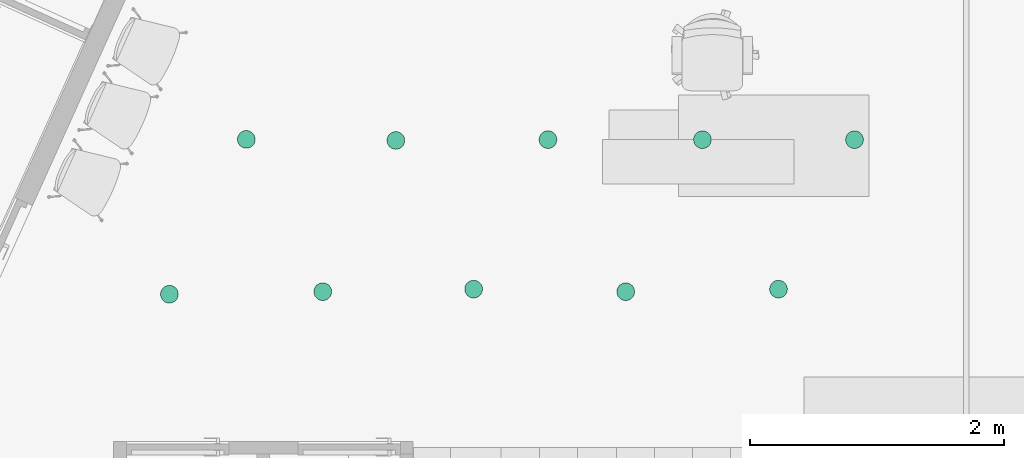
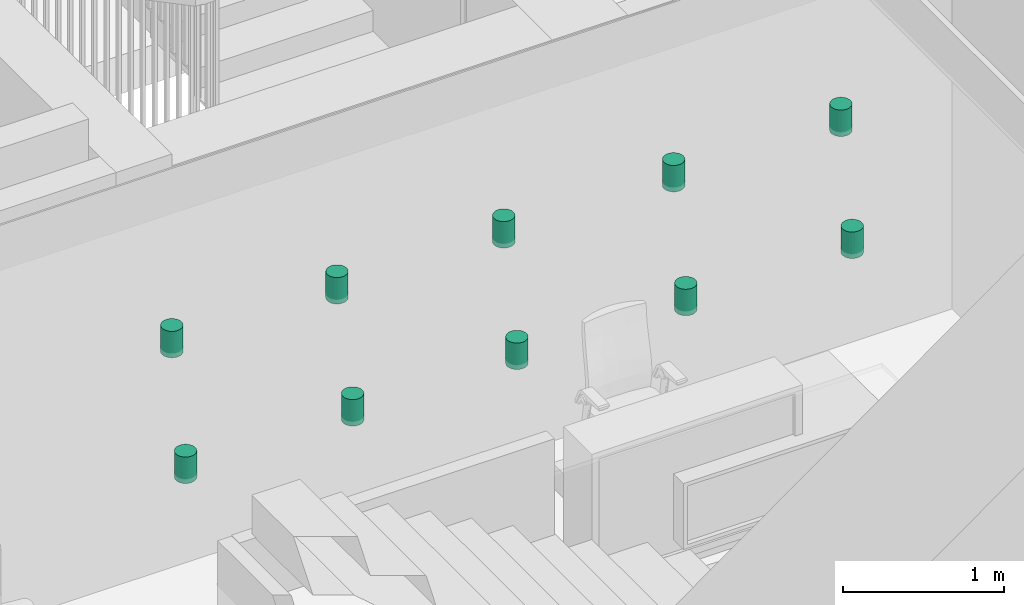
# One storey, part 22 of 25: 10 flow terminals.
"""IFC2X3 building model written with IfcOpenShell, lengths in millimetres."""

from ifc_helpers import new_model, entity, si_unit, converted_unit, derived_unit, direction, frame, frame_2d, origin, place, context, subcontext, project, spatial, circle, hollow_circle, extrude, source, transform, mapped, material, material_list, type_object, type_shapes, element, save


model = new_model("IFC2X3")

# Units and contexts
model_context = context("Model", 3, precision=0.01, world=origin(), true_north=direction((6.12303176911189e-17, 1.0)))
context_of_model = context(None, 3, precision=0.01, world=origin(), true_north=direction((6.12303176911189e-17, 1.0)))
body_context = subcontext(model_context, "Body", "Model", "MODEL_VIEW")
ifc_project = project(units=[si_unit("LENGTHUNIT", "METRE", prefix="MILLI"), si_unit("AREAUNIT", "SQUARE_METRE"), si_unit("VOLUMEUNIT", "CUBIC_METRE"), converted_unit("PLANEANGLEUNIT", "DEGREE", entity("IfcRatioMeasure", 0.0174532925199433), si_unit("PLANEANGLEUNIT", "RADIAN"), dimensions=[0, 0, 0, 0, 0, 0, 0]), si_unit("MASSUNIT", "GRAM", prefix="KILO"), derived_unit("MASSDENSITYUNIT", [(si_unit("MASSUNIT", "GRAM", prefix="KILO"), 1), (si_unit("LENGTHUNIT", "METRE"), -3)]), si_unit("TIMEUNIT", "SECOND"), si_unit("FREQUENCYUNIT", "HERTZ"), si_unit("THERMODYNAMICTEMPERATUREUNIT", "DEGREE_CELSIUS"), derived_unit("THERMALTRANSMITTANCEUNIT", [(si_unit("MASSUNIT", "GRAM", prefix="KILO"), 1), (si_unit("THERMODYNAMICTEMPERATUREUNIT", "KELVIN"), -1), (si_unit("TIMEUNIT", "SECOND"), -3)]), derived_unit("VOLUMETRICFLOWRATEUNIT", [(si_unit("LENGTHUNIT", "METRE"), 3), (si_unit("TIMEUNIT", "SECOND"), -1)]), si_unit("ELECTRICCURRENTUNIT", "AMPERE"), si_unit("ELECTRICVOLTAGEUNIT", "VOLT"), si_unit("POWERUNIT", "WATT"), si_unit("FORCEUNIT", "NEWTON", prefix="KILO"), si_unit("ILLUMINANCEUNIT", "LUX"), si_unit("LUMINOUSFLUXUNIT", "LUMEN"), si_unit("LUMINOUSINTENSITYUNIT", "CANDELA"), derived_unit("USERDEFINED", [(si_unit("MASSUNIT", "GRAM", prefix="KILO"), -1), (si_unit("LENGTHUNIT", "METRE"), -2), (si_unit("TIMEUNIT", "SECOND"), 3), (si_unit("LUMINOUSFLUXUNIT", "LUMEN"), 1)]), derived_unit("LINEARVELOCITYUNIT", [(si_unit("LENGTHUNIT", "METRE"), 1), (si_unit("TIMEUNIT", "SECOND"), -1)]), si_unit("PRESSUREUNIT", "PASCAL"), derived_unit("USERDEFINED", [(si_unit("LENGTHUNIT", "METRE"), -2), (si_unit("MASSUNIT", "GRAM", prefix="KILO"), 1), (si_unit("TIMEUNIT", "SECOND"), -2)])], contexts=[model_context, context_of_model])

# Site, building, storey, space
site_placement = place(None, frame((121442.264707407, 135347.995453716, -1800.0)))
site = spatial("IfcSite", under=ifc_project, at=site_placement, Name="Surface", CompositionType="ELEMENT")
building_placement = place(site_placement, origin())
building = spatial("IfcBuilding", under=site, at=building_placement, CompositionType="ELEMENT")
storey_placement = place(building_placement, frame((0.0, 0.0, 1800.0)))
storey = spatial("IfcBuildingStorey", under=building, at=storey_placement, Name="1 korrus", CompositionType="ELEMENT", Elevation=1800.00000000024)
space_placement = place(storey_placement, origin())
space = spatial("IfcSpace", under=storey, at=space_placement, Name="127", CompositionType="ELEMENT", InteriorOrExteriorSpace="INTERNAL")

# Flow terminals
ifc_material_1 = material(Name="Steel, Paint Finish, Dark Gray, Matte")
ifc_material_2 = material(Name="Glass, White, High Luminance")
ifc_material_list_1 = material_list([ifc_material_1, ifc_material_2])
ifc_material_list_2 = material_list([ifc_material_1, ifc_material_2])
light_fixture_type = type_object("IfcLightFixtureType", Name="152mm Incandescent - 120V", PredefinedType="NOTDEFINED", material=ifc_material_list_2)
shared_shape = source(origin(), body_context, "Body", "SweptSolid", [
    extrude(circle(Radius=69.9999999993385, at=frame_2d((5.0115692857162e-19, -2.25927138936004e-13), x_axis=(1.0, 0.0))), frame((0.0, 0.0, 2625.7)), (0.0, 0.0, 1.0), 12.6999999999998),
    extrude(hollow_circle(Radius=69.9999999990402, WallThickness=12.6999999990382, at=frame_2d((0.0, -3.83804902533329e-13), x_axis=(1.0, 0.0))), frame((0.0, 0.0, 2442.4)), (0.0, 0.0, 1.0), 183.300000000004),
    extrude(circle(Radius=70.0, at=frame_2d((1.71858605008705e-15, -1.13088120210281e-13), x_axis=(1.0, 0.0))), frame((0.0, 0.0, 2438.4)), (0.0, 0.0, 1.0), 3.99999999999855),
])
type_shapes(light_fixture_type, [shared_shape])
flow_terminal_1_placement = place(space_placement, frame((-110022.264707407, -128804.302025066, 211.6)))
element("IfcFlowTerminal", 1, at=flow_terminal_1_placement, inside=space, type_object=light_fixture_type, material=ifc_material_list_1, Name="M_Downlight - Recessed Can:152mm Incandescent - 120V", ObjectType="152mm Incandescent - 120V", context=body_context, shape_type="MappedRepresentation", body=[
    mapped(shared_shape, transform((0.0, 0.0, 0.0), scale=1.0)),
])
ifc_material_list_3 = material_list([ifc_material_1, ifc_material_2])
flow_terminal_2_placement = place(space_placement, frame((-108842.264707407, -128812.742916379, 211.6)))
element("IfcFlowTerminal", 2, at=flow_terminal_2_placement, inside=space, type_object=light_fixture_type, material=ifc_material_list_3, Name="M_Downlight - Recessed Can:152mm Incandescent - 120V", ObjectType="152mm Incandescent - 120V", context=body_context, shape_type="MappedRepresentation", body=[
    mapped(shared_shape, transform((0.0, 0.0, 0.0), scale=1.0)),
])
ifc_material_list_4 = material_list([ifc_material_1, ifc_material_2])
flow_terminal_3_placement = place(space_placement, frame((-107642.264707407, -128805.925769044, 211.6)))
element("IfcFlowTerminal", 3, at=flow_terminal_3_placement, inside=space, type_object=light_fixture_type, material=ifc_material_list_4, Name="M_Downlight - Recessed Can:152mm Incandescent - 120V", ObjectType="152mm Incandescent - 120V", context=body_context, shape_type="MappedRepresentation", body=[
    mapped(shared_shape, transform((0.0, 0.0, 0.0), scale=1.0)),
])
ifc_material_list_5 = material_list([ifc_material_1, ifc_material_2])
flow_terminal_4_placement = place(space_placement, frame((-106423.78903465, -128806.814962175, 211.6)))
element("IfcFlowTerminal", 4, at=flow_terminal_4_placement, inside=space, type_object=light_fixture_type, material=ifc_material_list_5, Name="M_Downlight - Recessed Can:152mm Incandescent - 120V", ObjectType="152mm Incandescent - 120V", context=body_context, shape_type="MappedRepresentation", body=[
    mapped(shared_shape, transform((0.0, 0.0, 0.0), scale=1.0)),
])
ifc_material_list_6 = material_list([ifc_material_1, ifc_material_2])
flow_terminal_5_placement = place(space_placement, frame((-110629.001080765, -130025.927165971, 211.6)))
element("IfcFlowTerminal", 5, at=flow_terminal_5_placement, inside=space, type_object=light_fixture_type, material=ifc_material_list_6, Name="M_Downlight - Recessed Can:152mm Incandescent - 120V", ObjectType="152mm Incandescent - 120V", context=body_context, shape_type="MappedRepresentation", body=[
    mapped(shared_shape, transform((0.0, 0.0, 0.0), scale=1.0)),
])
ifc_material_list_7 = material_list([ifc_material_1, ifc_material_2])
flow_terminal_6_placement = place(space_placement, frame((-109418.994234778, -130005.927165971, 211.6)))
element("IfcFlowTerminal", 6, at=flow_terminal_6_placement, inside=space, type_object=light_fixture_type, material=ifc_material_list_7, Name="M_Downlight - Recessed Can:152mm Incandescent - 120V", ObjectType="152mm Incandescent - 120V", context=body_context, shape_type="MappedRepresentation", body=[
    mapped(shared_shape, transform((0.0, 0.0, 0.0), scale=1.0)),
])
ifc_material_list_8 = material_list([ifc_material_1, ifc_material_2])
flow_terminal_7_placement = place(space_placement, frame((-108228.987963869, -129985.92716597, 211.6)))
element("IfcFlowTerminal", 7, at=flow_terminal_7_placement, inside=space, type_object=light_fixture_type, material=ifc_material_list_8, Name="M_Downlight - Recessed Can:152mm Incandescent - 120V", ObjectType="152mm Incandescent - 120V", context=body_context, shape_type="MappedRepresentation", body=[
    mapped(shared_shape, transform((0.0, 0.0, 0.0), scale=1.0)),
])
ifc_material_list_9 = material_list([ifc_material_1, ifc_material_2])
flow_terminal_8_placement = place(space_placement, frame((-107028.987963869, -130005.927165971, 211.6)))
element("IfcFlowTerminal", 8, at=flow_terminal_8_placement, inside=space, type_object=light_fixture_type, material=ifc_material_list_9, Name="M_Downlight - Recessed Can:152mm Incandescent - 120V", ObjectType="152mm Incandescent - 120V", context=body_context, shape_type="MappedRepresentation", body=[
    mapped(shared_shape, transform((0.0, 0.0, 0.0), scale=1.0)),
])
ifc_material_list_10 = material_list([ifc_material_1, ifc_material_2])
flow_terminal_9_placement = place(space_placement, frame((-105823.78903465, -129985.92716597, 211.6)))
element("IfcFlowTerminal", 9, at=flow_terminal_9_placement, inside=space, type_object=light_fixture_type, material=ifc_material_list_10, Name="M_Downlight - Recessed Can:152mm Incandescent - 120V", ObjectType="152mm Incandescent - 120V", context=body_context, shape_type="MappedRepresentation", body=[
    mapped(shared_shape, transform((0.0, 0.0, 0.0), scale=1.0)),
])
ifc_material_list_11 = material_list([ifc_material_1, ifc_material_2])
flow_terminal_10_placement = place(space_placement, frame((-105223.78903465, -128806.814962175, 211.6)))
element("IfcFlowTerminal", 10, at=flow_terminal_10_placement, inside=space, type_object=light_fixture_type, material=ifc_material_list_11, Name="M_Downlight - Recessed Can:152mm Incandescent - 120V", ObjectType="152mm Incandescent - 120V", context=body_context, shape_type="MappedRepresentation", body=[
    mapped(shared_shape, transform((0.0, 0.0, 0.0), scale=1.0)),
])

save(model, "model.ifc")
